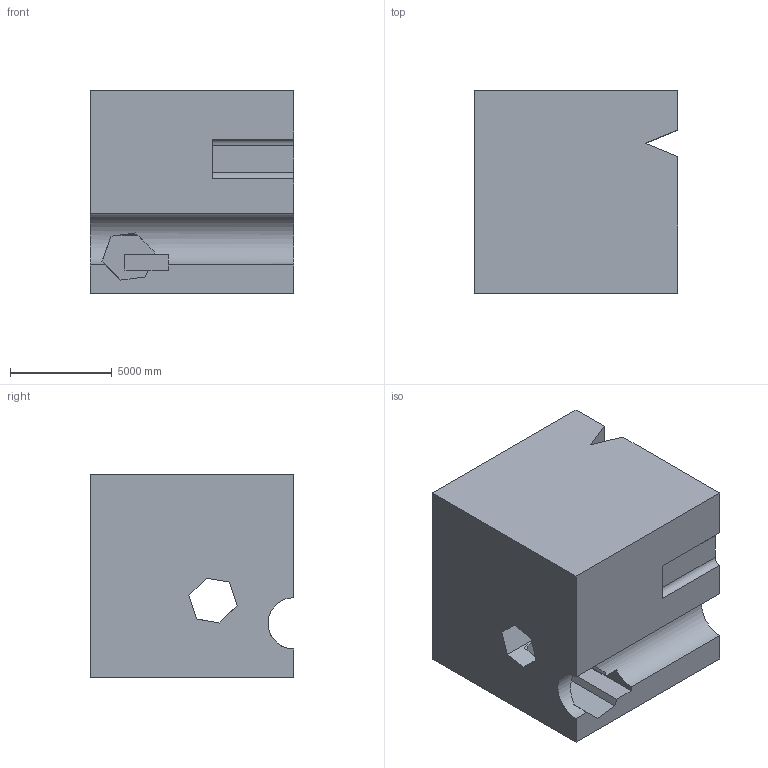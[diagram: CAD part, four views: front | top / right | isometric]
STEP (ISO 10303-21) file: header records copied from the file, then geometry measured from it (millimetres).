
FILE_DESCRIPTION (( 'STEP AP203' ), '1' );
FILE_NAME ('56.STEP', '2022-08-30T14:14:24', ( 'user' ), ( '' ), 'SwSTEP 2.0', 'SolidWorks 2021', '' );
FILE_SCHEMA (( 'CONFIG_CONTROL_DESIGN' ));
Length unit declared in the file: centimetre
Products named in the file (1): 56
Bounding box: 10000 x 10000 x 10000 mm (x, y, z)
Volume: 899463627353.4 mm3; surface area: 749430056.1 mm2
Topology: 1 solids, 1 shells, 35 faces, 105 edges, 70 vertices
Faces by surface type: plane 32, cylinder 3
Entity records: 1251 total; most frequent: CARTESIAN_POINT 226, ORIENTED_EDGE 210, DIRECTION 179, EDGE_CURVE 105, LINE 93, VECTOR 93, VERTEX_POINT 70, AXIS2_PLACEMENT_3D 43
